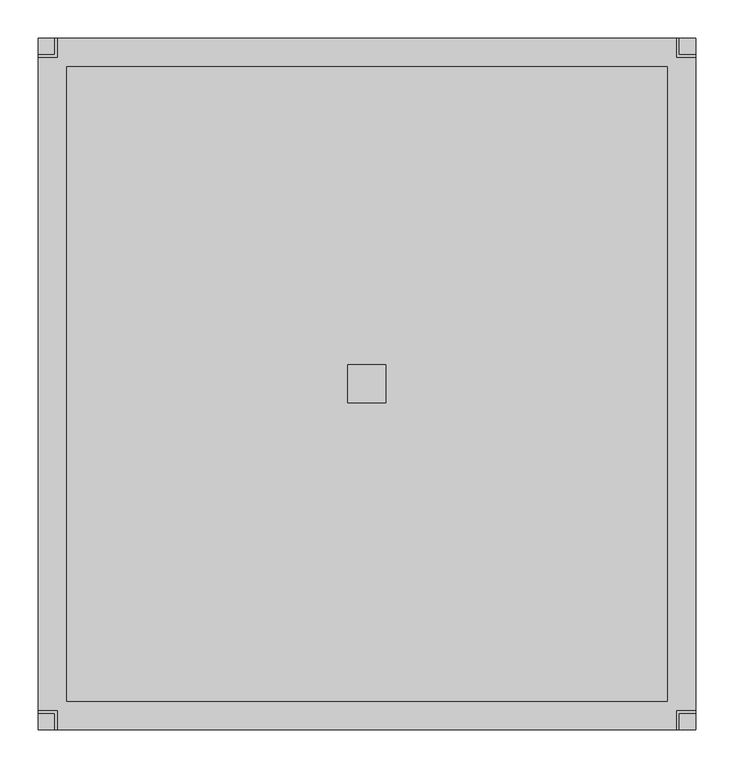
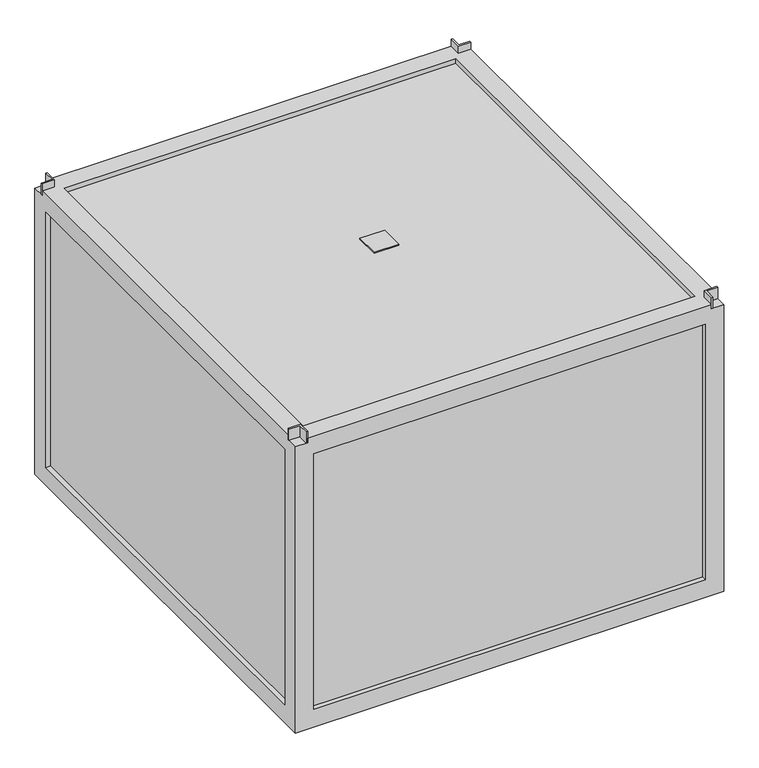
"""IFC4 building model written with IfcOpenShell, lengths in millimetres: proxy geometry, KORF_Вентилятор_UTR_WRH : UTR 70-40 WRH 35.4D."""

from ifc_helpers import new_model, si_unit, frame, origin, place, context, project, spatial, polyline, outline, extrude, faceted_brep, source, transform, mapped, element, save


def mechanical_equipment_4406454f(model_context):
    return source(origin(), model_context, "Body", "SolidModel", [
        extrude(outline(polyline([(407.5, -25.0), (407.5, 25.0), (457.5, 25.0), (457.5, -25.0), (407.5, -25.0)])), frame((0.0, 0.0, 310.0), z_axis=(0.0, 0.0, 1.0), x_axis=(1.0, 0.0, 0.0)), (0.0, 0.0, 1.0), 2.0),
        extrude(outline(polyline([(25.0, 430.0), (0.0, 430.0), (0.0, 433.0), (22.0, 433.0), (22.0, 455.0), (25.0, 455.0), (25.0, 430.0)])), frame((0.0, 0.0, 301.0), z_axis=(0.0, 0.0, 1.0), x_axis=(1.0, 0.0, 0.0)), (0.0, 0.0, 1.0), 24.0),
        extrude(outline(polyline([(840.0, 430.0), (840.0, 455.0), (843.0, 455.0), (843.0, 433.0), (865.0, 433.0), (865.0, 430.0), (840.0, 430.0)])), frame((0.0, 0.0, 301.0), z_axis=(0.0, 0.0, 1.0), x_axis=(1.0, 0.0, 0.0)), (0.0, 0.0, 1.0), 24.0),
        extrude(outline(polyline([(25.0, -430.0), (25.0, -455.0), (22.0, -455.0), (22.0, -433.0), (0.0, -433.0), (0.0, -430.0), (25.0, -430.0)])), frame((0.0, 0.0, 301.0), z_axis=(0.0, 0.0, 1.0), x_axis=(1.0, 0.0, 0.0)), (0.0, 0.0, 1.0), 24.0),
        extrude(outline(polyline([(840.0, -430.0), (865.0, -430.0), (865.0, -433.0), (843.0, -433.0), (843.0, -455.0), (840.0, -455.0), (840.0, -430.0)])), frame((0.0, 0.0, 301.0), z_axis=(0.0, 0.0, 1.0), x_axis=(1.0, 0.0, 0.0)), (0.0, 0.0, 1.0), 24.0),
        extrude(outline(polyline([(855.0, 445.0), (855.0, -445.0), (10.0, -445.0), (10.0, 445.0), (855.0, 445.0)])), frame((0.0, 0.0, -300.0), z_axis=(0.0, 0.0, 1.0), x_axis=(1.0, 0.0, 0.0)), (0.0, 0.0, 1.0), 600.0),
        faceted_brep([(0.0, -454.9999993, -309.9999993), (865.0, -454.9999993, -309.9999993), (864.9999993, -454.9999993, 301.0), (840.0, -454.9999993, 301.0), (840.0, -454.9999993, 310.0), (25.0, -454.9999993, 309.9999993), (25.0, -454.9999993, 301.0), (0.0, -454.9999993, 301.0), (37.5, -454.9999993, -272.4999993), (37.5, -454.9999993, 272.5), (827.4999993, -454.9999993, 272.5), (827.4999993, -454.9999993, -272.4999993), (10.000001, -444.9999993, -299.9999993), (10.000001, -444.9999993, 299.9999993), (854.9999993, -444.9999993, 299.999999), (854.999999, -444.9999993, -299.9999993), (37.5, -444.9999993, 272.5), (37.5, -444.9999993, -272.4999993), (827.4999993, -444.9999993, -272.4999993), (827.4999993, -444.9999993, 272.5), (0.0, -417.4999993, 272.4999993), (10.000001, -417.4999993, 272.4999993), (10.000001, -417.4999993, -272.4999993), (0.0, -417.4999993, -272.4999993), (0.0, 454.9999993, -309.9999993), (865.0, 455.0, -309.9999993), (827.5, -417.5, -309.9999993), (827.5, 417.5, -309.9999993), (37.5, 417.5, -309.9999993), (37.5, -417.5, -309.9999993), (10.000001, 444.9999993, -299.9999993), (854.999999, 444.999999, -299.9999993), (827.5, 417.5, -299.9999993), (827.5, -417.5, -299.9999993), (37.5, -417.5, -299.9999993), (37.5, 417.5, -299.9999993), (10.000001, 417.4999993, -272.4999993), (0.0, 417.4999993, -272.4999993), (0.0, 454.9999993, 301.0), (25.0, 454.9999993, 301.0), (25.0, 454.9999993, 309.9999993), (840.0, 454.9999993, 310.0), (840.0, 454.9999993, 301.0), (864.9999993, 454.9999993, 301.0), (37.5, 454.9999993, 272.5), (37.5, 454.9999993, -272.4999993), (827.4999993, 454.9999993, -272.4999993), (827.4999993, 454.9999993, 272.5), (10.000001, 444.9999993, 299.9999993), (854.9999993, 444.9999993, 299.999999), (37.5, 444.9999993, -272.4999993), (37.5, 444.9999993, 272.5), (827.4999993, 444.9999993, 272.5), (827.4999993, 444.9999993, -272.4999993), (10.000001, 417.4999993, 272.4999993), (0.0, 417.4999993, 272.4999993), (0.0, -430.0, 301.0), (0.0, -430.0, 309.9999993), (0.0, 430.0, 309.9999993), (0.0, 430.0, 301.0), (840.0, -430.0, 309.9999993), (864.9999993, -430.0, 309.9999993), (864.9999993, 430.0, 309.9999993), (840.0, 430.0, 309.9999993), (25.0, 430.0, 309.9999993), (25.0, -430.0, 309.9999993), (827.4999993, 417.4999993, 309.9999993), (827.4999993, -417.4999993, 309.9999993), (37.5000007, -417.4999993, 309.9999993), (37.5, 417.4999993, 309.9999993), (37.5, -417.4999993, 299.9999993), (37.5, 417.4999993, 299.9999993), (827.4999993, -417.4999993, 299.9999993), (827.4999993, 417.4999993, 299.9999993), (864.9999993, 430.0, 301.0), (864.9999993, -430.0, 301.0), (864.9999993, -417.5, -272.5), (864.9999993, -417.5, 272.5), (864.9999993, 417.5, 272.5), (864.9999993, 417.5, -272.5), (854.9999993, -417.5, 272.5), (854.9999993, -417.5, -272.5), (854.9999993, 417.5, -272.4999993), (854.9999993, 417.5, 272.5), (25.0, 430.0, 301.0), (840.0, 430.0, 301.0), (840.0, -430.0, 301.0), (25.0, -430.0, 301.0)], [[[0, 1, 2, 3, 4, 5, 6, 7], [8, 9, 10, 11]], [[12, 13, 14, 15], [16, 17, 18, 19]], [[20, 21, 22, 23]], [[0, 24, 25, 1], [26, 27, 28, 29]], [[30, 12, 15, 31], [32, 33, 34, 35]], [[23, 22, 36, 37]], [[25, 24, 38, 39, 40, 41, 42, 43], [44, 45, 46, 47]], [[48, 30, 31, 49], [50, 51, 52, 53]], [[37, 36, 54, 55]], [[24, 0, 7, 56, 57, 58, 59, 38], [20, 23, 37, 55]], [[5, 4, 60, 61, 62, 63, 41, 40, 64, 58, 57, 65], [66, 67, 68, 69]], [[35, 34, 29, 28]], [[69, 68, 70, 71]], [[16, 9, 8, 17]], [[44, 51, 50, 45]], [[13, 48, 49, 14], [72, 73, 71, 70]], [[12, 30, 48, 13], [22, 21, 54, 36]], [[21, 20, 55, 54]], [[1, 25, 43, 74, 62, 61, 75, 2], [76, 77, 78, 79]], [[14, 49, 31, 15], [80, 81, 82, 83]], [[66, 73, 72, 67]], [[67, 72, 70, 68]], [[9, 16, 19, 10]], [[51, 44, 47, 52]], [[80, 83, 78, 77]], [[73, 66, 69, 71]], [[32, 27, 26, 33]], [[33, 26, 29, 34]], [[27, 32, 35, 28]], [[17, 8, 11, 18]], [[45, 50, 53, 46]], [[76, 79, 82, 81]], [[77, 76, 81, 80]], [[79, 78, 83, 82]], [[11, 10, 19, 18]], [[47, 46, 53, 52]], [[59, 84, 39, 38]], [[42, 85, 74, 43]], [[75, 86, 3, 2]], [[87, 56, 7, 6]], [[84, 59, 58, 64]], [[39, 84, 64, 40]], [[85, 42, 41, 63]], [[74, 85, 63, 62]], [[86, 75, 61, 60]], [[3, 86, 60, 4]], [[56, 87, 65, 57]], [[87, 6, 5, 65]]]),
    ])


if __name__ == "__main__":
    model = new_model("IFC4")
    model_context = context("Model", 3, world=origin())
    ifc_project = project(units=[si_unit("LENGTHUNIT", "METRE", prefix="MILLI")], contexts=[model_context])
    site = spatial("IfcSite", under=ifc_project)
    building = spatial("IfcBuilding", under=site)
    placement = place(None, origin())
    mechanical_equipment_shape = mechanical_equipment_4406454f(model_context)
    element("IfcBuildingElementProxy", 1, Name="KORF_Вентилятор_UTR_WRH : UTR 70-40 WRH 35.4D", ObjectType="KORF_Вентилятор_UTR_WRH : UTR 70-40 WRH 35.4D", at=placement, inside=building, context=model_context, shape_type="MappedRepresentation", body=[
        mapped(mechanical_equipment_shape, transform((0.0, 0.0, 0.0), x_axis=(1.0, 0.0, 0.0), y_axis=(0.0, 1.0, 0.0), z_axis=(0.0, 0.0, 1.0))),
    ])
    save(model, "model.ifc")
